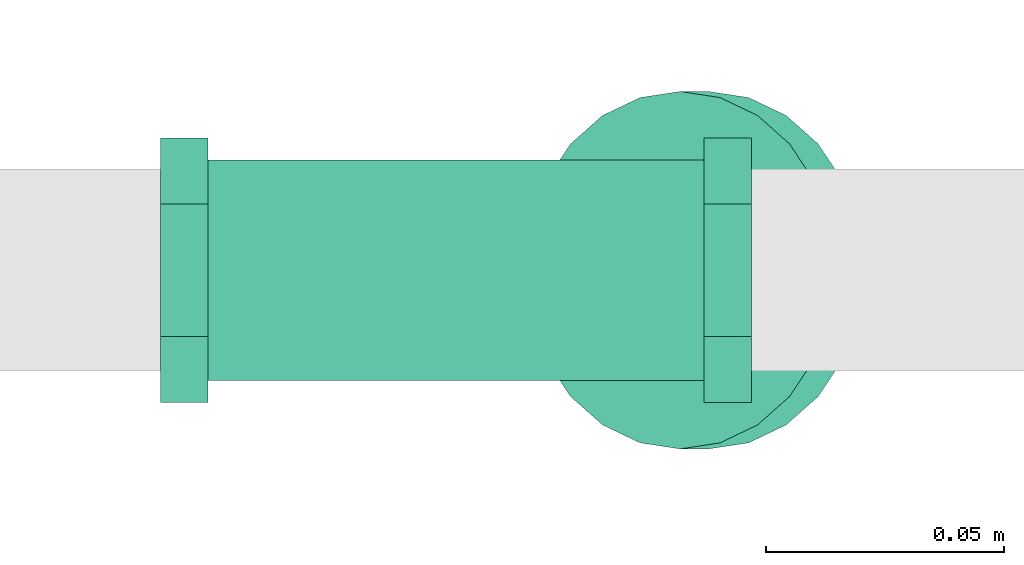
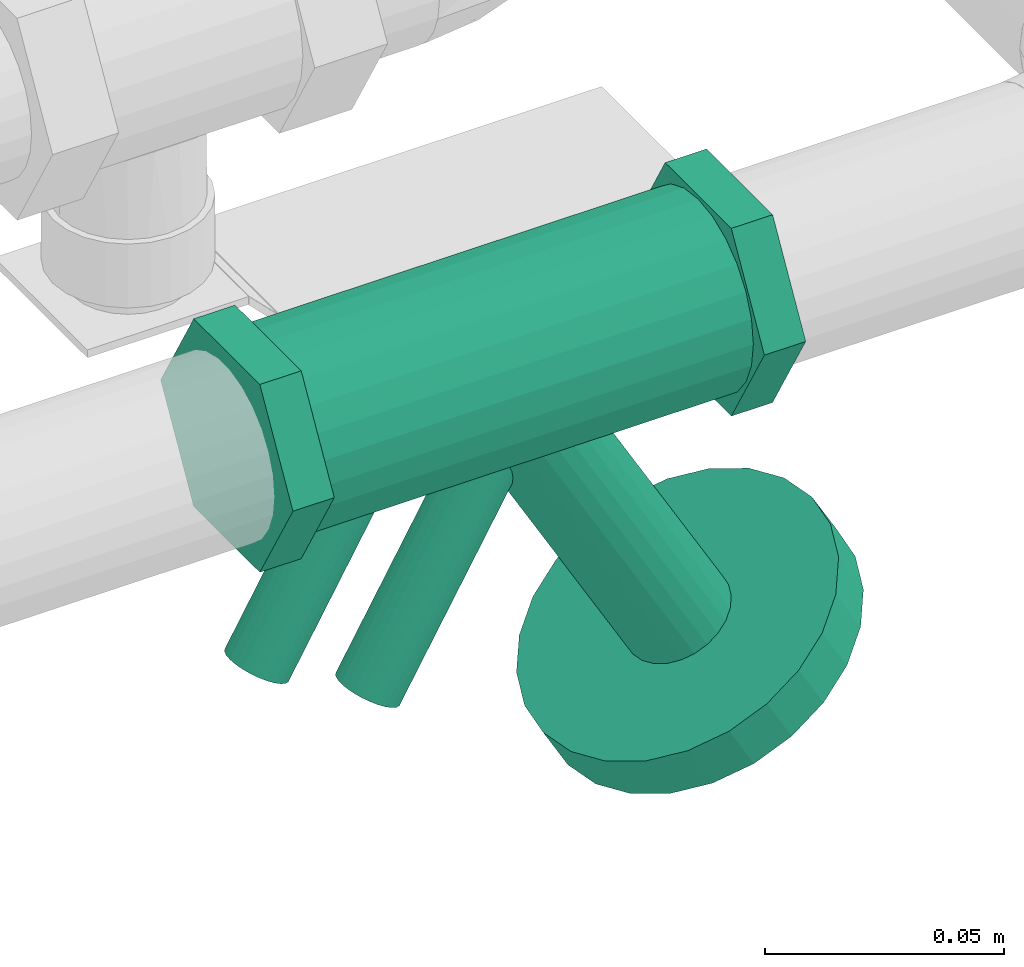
# One storey, part 37 of 108: 1 flow controller.
"""IFC2X3 building model written with IfcOpenShell, lengths in millimetres."""

from ifc_helpers import new_model, entity, si_unit, converted_unit, derived_unit, direction, frame, origin_with_axes, place, context, subcontext, project, spatial, open_shell, surface_model, source, transform, mapped, type_object, element, save


model = new_model("IFC2X3")

# Units and contexts
model_context = context("Model", 3, precision=0.01, world=frame((0.0, 4.29681676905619e-09, 0.0)), true_north=direction((4.01073788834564e-13, 1.0)))
plan_context = context("Plan", 3, precision=0.01, world=frame((0.0, 4.29681676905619e-09, 0.0)), true_north=direction((4.01073788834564e-13, 1.0)))
body_context = subcontext(model_context, "Body", "Model", "MODEL_VIEW")
ifc_project = project(units=[converted_unit("PLANEANGLEUNIT", "DEGREE", entity("IfcPositiveLengthMeasure", 0.0174532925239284), si_unit("PLANEANGLEUNIT", "RADIAN"), dimensions=[0, 0, 0, 0, 0, 0, 0]), si_unit("AREAUNIT", "SQUARE_METRE"), si_unit("LENGTHUNIT", "METRE", prefix="MILLI"), si_unit("MASSUNIT", "GRAM", prefix="KILO"), si_unit("POWERUNIT", "WATT"), si_unit("PRESSUREUNIT", "PASCAL", prefix="KILO"), si_unit("FORCEUNIT", "NEWTON", prefix="KILO"), si_unit("ELECTRICVOLTAGEUNIT", "VOLT"), si_unit("ELECTRICCURRENTUNIT", "AMPERE"), si_unit("THERMODYNAMICTEMPERATUREUNIT", "DEGREE_CELSIUS"), si_unit("TIMEUNIT", "SECOND"), si_unit("VOLUMEUNIT", "CUBIC_METRE"), derived_unit("LINEARVELOCITYUNIT", [(si_unit("LENGTHUNIT", "METRE"), 1), (si_unit("TIMEUNIT", "SECOND"), -1)]), derived_unit("VOLUMETRICFLOWRATEUNIT", [(si_unit("VOLUMEUNIT", "CUBIC_METRE"), 1), (si_unit("TIMEUNIT", "SECOND"), -1)]), derived_unit("THERMALTRANSMITTANCEUNIT", [(si_unit("POWERUNIT", "WATT"), 1), (si_unit("THERMODYNAMICTEMPERATUREUNIT", "KELVIN"), -1), (si_unit("AREAUNIT", "SQUARE_METRE"), -1)]), derived_unit("SOUNDPRESSUREUNIT", [(si_unit("PRESSUREUNIT", "PASCAL"), 1)])], contexts=[model_context, plan_context])

# Site, building, storey
site_placement = place(None, frame((0.0, -4.29681676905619e-09, 0.0), z_axis=(0.0, 0.0, 1.0), x_axis=(1.0, 0.0, 0.0)))
site = spatial("IfcSite", under=ifc_project, at=site_placement, CompositionType="ELEMENT")
building_placement = place(site_placement, frame((0.0, 4.29681676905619e-09, 0.0), z_axis=(0.0, 0.0, 1.0), x_axis=(1.0, 0.0, 0.0)))
building = spatial("IfcBuilding", under=site, at=building_placement, Name="mc-building", CompositionType="ELEMENT")
storey_placement = place(building_placement, frame((0.0, 0.0, 210200.0), z_axis=(0.0, 0.0, 1.0), x_axis=(1.0, 0.0, 0.0)))
storey = spatial("IfcBuildingStorey", under=building, at=storey_placement, Name="Nivå F - 0,7 m", CompositionType="ELEMENT", Elevation=210200.0)

# Flow controller
valve_type = type_object("IfcValveType", Name="STAD/F-32", PredefinedType="NOTDEFINED")
shared_shape = source(origin_with_axes(), body_context, "Body", "SurfaceModel", [
    surface_model("IfcShellBasedSurfaceModel", [(5.41266, -10.82532, 3.125), (7.65466, -8.83883, 4.41942), (5.32606, -10.65211, 3.075), (2.75697, -11.88089, 1.59174), (0.0, -12.3, 0.0), (2.8018, -12.07407, 1.61762), (0.0, -12.5, 0.0), (7.53218, -8.69741, 4.34871), (10.45645, -3.23524, 6.03704), (10.65211, 0.0, 6.15), (10.28915, -3.18347, 5.94044), (10.82532, 0.0, 6.25), (9.375, -6.25, 5.41266), (9.225, -6.15, 5.32606), (-2.75697, -11.88089, -1.59174), (-2.8018, -12.07407, -1.61762), (-5.32606, -10.65211, -3.075), (-7.65466, -8.83883, -4.41942), (-5.41266, -10.82532, -3.125), (-7.53218, -8.69741, -4.34871), (-9.225, -6.15, -5.32606), (-9.375, -6.25, -5.41266), (-10.28915, -3.18347, -5.94044), (-10.45645, -3.23524, -6.03704), (-10.65211, 0.0, -6.15), (-10.82532, 0.0, -6.25), (10.45645, 3.23524, 6.03704), (10.28915, 3.18347, 5.94044), (9.225, 6.15, 5.32606), (9.375, 6.25, 5.41266), (7.53218, 8.69741, 4.34871), (7.65466, 8.83883, 4.41942), (5.41266, 10.82532, 3.125), (5.32606, 10.65211, 3.075), (2.75697, 11.88089, 1.59174), (2.8018, 12.07407, 1.61762), (0.0, 12.3, 0.0), (0.0, 12.5, 0.0), (-9.375, 6.25, -5.41266), (-9.225, 6.15, -5.32606), (-7.65466, 8.83883, -4.41942), (-7.53218, 8.69741, -4.34871), (-10.45645, 3.23524, -6.03704), (-10.28915, 3.18347, -5.94044), (-2.75697, 11.88089, -1.59174), (-2.8018, 12.07407, -1.61762), (-5.32606, 10.65211, -3.075), (-5.41266, 10.82532, -3.125), (62.0, 13.86, -24.00622), (62.0, 27.72, 0.0), (62.0, -13.86, -24.00622), (62.0, 13.86, 24.00622), (62.0, -13.86, 24.00622), (62.0, -27.72, 0.0), (52.0, -27.72, 0.0), (52.0, -13.86, 24.00622), (52.0, -13.86, -24.00622), (52.0, 27.72, 0.0), (52.0, 13.86, -24.00622), (52.0, 13.86, 24.00622), (-62.0, -13.86, -24.00622), (-62.0, -27.72, 0.0), (-62.0, 13.86, -24.00622), (-62.0, -13.86, 24.00622), (-62.0, 13.86, 24.00622), (-62.0, 27.72, 0.0), (-52.0, 27.72, 0.0), (-52.0, 13.86, 24.00622), (-52.0, 13.86, -24.00622), (-52.0, -27.72, 0.0), (-52.0, -13.86, -24.00622), (-52.0, -13.86, 24.00622), (61.40539, 36.22222, -86.94584), (69.23797, 32.47595, -82.42369), (75.96396, 26.5165, -78.54045), (36.76202, 32.47595, -101.17369), (84.36936, 9.70571, -73.68759), (81.125, 18.75, -75.56072), (21.63063, -9.70571, -109.90981), (21.63063, 9.70571, -109.90981), (44.5946, 36.22222, -96.65155), (52.99999, 37.5, -91.79869), (30.03603, 26.5165, -105.05695), (24.87499, 18.75, -108.03667), (85.47595, 0.0, -73.0487), (52.99999, -37.5, -91.79869), (84.36936, -9.70571, -73.68759), (81.125, -18.75, -75.56072), (69.23797, -32.47595, -82.42369), (75.96396, -26.5165, -78.54045), (61.40539, -36.22222, -86.94584), (24.87499, -18.75, -108.03667), (20.52404, 0.0, -110.54869), (36.76202, -32.47595, -101.17369), (30.03603, -26.5165, -105.05695), (44.5946, -36.22222, -96.65155), (78.36936, -9.70571, -63.29528), (47.0, -37.5, -81.40639), (55.40539, -36.22222, -76.55353), (63.23797, -32.47595, -72.03139), (75.125, -18.75, -65.16841), (69.96396, -26.5165, -68.14814), (15.63063, -9.70571, -99.5175), (38.5946, -36.22222, -86.25925), (24.03603, -26.5165, -94.66464), (30.76202, -32.47595, -90.78139), (18.87499, -18.75, -97.64437), (15.63063, 9.70571, -99.5175), (14.52404, 0.0, -100.15639), (69.96396, 26.5165, -68.14814), (78.36936, 9.70571, -63.29528), (75.125, 18.75, -65.16841), (63.23797, 32.47595, -72.03139), (55.40539, 36.22222, -76.55353), (30.76202, 32.47595, -90.78139), (18.87499, 18.75, -97.64437), (24.03603, 26.5165, -94.66464), (47.0, 37.5, -81.40639), (38.5946, 36.22222, -86.25925), (79.47595, 0.0, -62.65639), (52.0, 11.55, -20.00519), (52.0, -5.97872, -22.31289), (52.0, 5.97872, -22.31289), (52.0, 20.00519, -11.55), (52.0, 16.33417, -16.33417), (52.0, -22.31289, -5.97872), (52.0, 22.31289, -5.97872), (52.0, -16.33417, 16.33417), (52.0, -11.55, -20.00519), (52.0, 0.0, -23.1), (52.0, -16.33417, -16.33417), (52.0, -20.00519, -11.55), (52.0, 23.1, 0.0), (52.0, 22.31289, 5.97872), (52.0, 20.00519, 11.55), (52.0, 16.33417, 16.33417), (52.0, 11.55, 20.00519), (52.0, 5.97872, 22.31289), (52.0, 0.0, 23.1), (52.0, -22.31289, 5.97872), (52.0, -20.00519, 11.55), (52.0, -23.1, 0.0), (52.0, -5.97872, 22.31289), (52.0, -11.55, 20.00519), (-52.0, 0.0, 23.1), (-52.0, 5.97872, 22.31289), (-52.0, 11.55, 20.00519), (-52.0, -16.33417, 16.33417), (-52.0, 16.33417, 16.33417), (-52.0, 20.00519, 11.55), (-52.0, 22.31289, 5.97872), (-52.0, -5.97872, 22.31289), (-52.0, -11.55, 20.00519), (-52.0, -22.31289, 5.97872), (-52.0, -20.00519, 11.55), (-52.0, -23.1, 0.0), (-52.0, -22.31289, -5.97872), (-52.0, 22.31289, -5.97872), (-52.0, 16.33417, -16.33417), (-52.0, 20.00519, -11.55), (-52.0, -5.97872, -22.31289), (-52.0, 11.55, -20.00519), (-52.0, 0.0, -23.1), (-52.0, 5.97872, -22.31289), (-52.0, -16.33417, -16.33417), (-52.0, -20.00519, -11.55), (-52.0, -11.55, -20.00519), (-52.0, 23.1, 0.0), (-26.24732, 7.24444, -75.15582), (-24.68081, 6.49519, -76.06025), (-23.33561, 5.3033, -76.8369), (-31.176, 6.49519, -72.31025), (-22.3034, 3.75, -77.43284), (-21.65453, 1.94114, -77.80747), (-21.43321, 0.0, -77.93525), (-21.65453, -1.94114, -77.80747), (-33.5534, 3.75, -70.93765), (-27.9284, 7.5, -74.18525), (-29.60948, 7.24444, -73.21468), (-32.5212, 5.3033, -71.5336), (-34.42359, 0.0, -70.43524), (-34.20228, 1.94114, -70.56303), (-22.3034, -3.75, -77.43284), (-23.33561, -5.3033, -76.8369), (-24.68081, -6.49519, -76.06025), (-26.24732, -7.24444, -75.15582), (-27.9284, -7.5, -74.18525), (-29.60948, -7.24444, -73.21468), (-34.20228, -1.94114, -70.56303), (-31.176, -6.49519, -72.31025), (-33.5534, -3.75, -70.93765), (-32.5212, -5.3033, -71.5336), (19.69659, -3.75, -4.68671), (14.07159, -7.5, -1.43911), (15.75267, -7.24444, -2.40968), (18.66439, -5.3033, -4.09076), (17.31919, -6.49519, -3.31411), (9.4788, -5.3033, 1.21254), (8.44659, -3.75, 1.80848), (20.34547, -1.94114, -5.06133), (12.39051, -7.24444, -0.46854), (10.824, -6.49519, 0.43589), (7.79772, -1.94114, 2.18311), (7.79772, 1.94114, 2.18311), (7.5764, 0.0, 2.31089), (10.824, 6.49519, 0.43589), (18.66439, 5.3033, -4.09076), (20.56678, 0.0, -5.18911), (20.34547, 1.94114, -5.06133), (19.69659, 3.75, -4.68671), (17.31919, 6.49519, -3.31411), (15.75267, 7.24444, -2.40968), (9.4788, 5.3033, 1.21254), (8.44659, 3.75, 1.80848), (14.07159, 7.5, -1.43911), (12.39051, 7.24444, -0.46854), (-48.50132, 1.94114, -62.30747), (-53.09411, 7.24444, -59.65582), (-51.5276, 6.49519, -60.56025), (-50.1824, 5.3033, -61.33689), (-61.04906, 1.94114, -55.06303), (-49.15019, 3.75, -61.93284), (-59.36798, -5.3033, -56.0336), (-56.45627, 7.24444, -57.71467), (-54.77519, 7.5, -58.68524), (-58.02278, 6.49519, -56.81025), (-59.36798, 5.3033, -56.0336), (-60.40019, 3.75, -55.43765), (-48.28, 0.0, -62.43525), (-48.50132, -1.94114, -62.30747), (-49.15019, -3.75, -61.93284), (-50.1824, -5.3033, -61.33689), (-53.09411, -7.24444, -59.65582), (-51.5276, -6.49519, -60.56025), (-54.77519, -7.5, -58.68524), (-61.04906, -1.94114, -55.06303), (-60.40019, -3.75, -55.43765), (-61.27038, 0.0, -54.93525), (-56.45627, -7.24444, -57.71467), (-58.02278, -6.49519, -56.81025), (-28.59411, -7.24444, -17.22057), (-34.86799, -5.3033, -13.59835), (-30.27519, -7.5, -16.25), (-25.6824, -5.3033, -18.90165), (-27.0276, -6.49519, -18.125), (-24.65019, -3.75, -19.49759), (-24.00132, -1.94114, -19.87222), (-36.54907, 1.94114, -12.62778), (-31.95627, -7.24444, -15.27943), (-33.52279, -6.49519, -14.375), (-35.90019, -3.75, -13.00241), (-36.54907, -1.94114, -12.62778), (-36.77038, 0.0, -12.5), (-24.00132, 1.94114, -19.87222), (-25.6824, 5.3033, -18.90165), (-24.65019, 3.75, -19.49759), (-27.0276, 6.49519, -18.125), (-28.59411, 7.24444, -17.22057), (-34.86799, 5.3033, -13.59835), (-35.90019, 3.75, -13.00241), (-33.52279, 6.49519, -14.375), (-30.27519, 7.5, -16.25), (-31.95627, 7.24444, -15.27943), (-23.78, 0.0, -20.0), (52.41265, 10.82532, -78.28139), (54.65465, 8.83883, -76.98697), (52.32605, 10.65211, -78.33139), (49.75696, 11.88089, -79.81465), (47.0, 12.3, -81.40639), (49.80179, 12.07407, -79.78877), (47.0, 12.5, -81.40639), (54.53218, 8.69741, -77.05769), (57.45645, 3.23524, -75.36935), (57.65211, 0.0, -75.25639), (57.28914, 3.18347, -75.46595), (57.82531, 0.0, -75.15639), (56.375, 6.25, -75.99373), (56.225, 6.15, -76.08034), (44.24303, 11.88089, -82.99813), (44.1982, 12.07407, -83.02401), (41.67394, 10.65211, -84.48139), (39.34534, 8.83883, -85.82581), (41.58734, 10.82532, -84.53139), (39.46781, 8.69741, -85.75509), (37.77499, 6.15, -86.73244), (37.62499, 6.25, -86.81905), (36.71085, 3.18347, -87.34683), (36.54354, 3.23524, -87.44343), (36.34788, 0.0, -87.55639), (36.17468, 0.0, -87.65639), (57.45645, -3.23524, -75.36935), (57.28914, -3.18347, -75.46595), (56.225, -6.15, -76.08034), (56.375, -6.25, -75.99373), (54.53218, -8.69741, -77.05769), (54.65465, -8.83883, -76.98697), (52.41265, -10.82532, -78.28139), (52.32605, -10.65211, -78.33139), (49.75696, -11.88089, -79.81465), (49.80179, -12.07407, -79.78877), (47.0, -12.3, -81.40639), (47.0, -12.5, -81.40639), (37.62499, -6.25, -86.81905), (37.77499, -6.15, -86.73244), (39.34534, -8.83883, -85.82581), (39.46781, -8.69741, -85.75509), (36.54354, -3.23524, -87.44343), (36.71085, -3.18347, -87.34683), (44.24303, -11.88089, -82.99813), (44.1982, -12.07407, -83.02401), (41.67394, -10.65211, -84.48139), (41.58734, -10.82532, -84.53139)], [open_shell([[[0, 1, 2]], [[0, 2, 3]], [[4, 5, 3]], [[5, 4, 6]], [[3, 5, 0]], [[2, 1, 7]], [[8, 9, 10]], [[9, 8, 11]], [[8, 10, 12]], [[7, 12, 13]], [[12, 7, 1]], [[13, 12, 10]], [[6, 14, 15]], [[15, 14, 16]], [[17, 18, 19]], [[16, 18, 15]], [[16, 19, 18]], [[6, 4, 14]], [[20, 21, 17]], [[21, 20, 22]], [[20, 17, 19]], [[23, 22, 24]], [[22, 23, 21]], [[23, 24, 25]], [[11, 26, 27]], [[27, 26, 28]], [[28, 29, 30]], [[29, 28, 26]], [[30, 29, 31]], [[31, 32, 33]], [[33, 32, 34]], [[34, 35, 36]], [[35, 34, 32]], [[36, 35, 37]], [[33, 30, 31]], [[38, 39, 40]], [[40, 39, 41]], [[39, 38, 42]], [[25, 43, 42]], [[42, 43, 39]], [[25, 24, 43]], [[44, 37, 45]], [[44, 45, 46]], [[41, 47, 40]], [[41, 46, 47]], [[47, 46, 45]], [[36, 37, 44]], [[27, 9, 11]], [[48, 49, 50]], [[50, 49, 51]], [[50, 52, 53]], [[52, 50, 51]], [[54, 55, 56]], [[56, 55, 57]], [[57, 58, 56]], [[57, 55, 59]], [[52, 51, 55]], [[59, 55, 51]], [[53, 52, 55]], [[55, 54, 53]], [[50, 53, 54]], [[54, 56, 50]], [[48, 50, 58]], [[56, 58, 50]], [[49, 48, 57]], [[58, 57, 48]], [[51, 49, 59]], [[57, 59, 49]], [[60, 61, 62]], [[62, 61, 63]], [[62, 64, 65]], [[64, 62, 63]], [[66, 67, 68]], [[68, 67, 69]], [[69, 70, 68]], [[69, 67, 71]], [[64, 63, 67]], [[71, 67, 63]], [[65, 64, 67]], [[67, 66, 65]], [[62, 65, 66]], [[66, 68, 62]], [[60, 62, 70]], [[68, 70, 62]], [[61, 60, 69]], [[70, 69, 60]], [[63, 61, 71]], [[69, 71, 61]], [[72, 73, 74]], [[75, 72, 74]], [[75, 74, 76]], [[76, 74, 77]], [[78, 79, 76]], [[72, 80, 81]], [[72, 75, 80]], [[82, 79, 83]], [[79, 82, 75]], [[76, 79, 75]], [[76, 84, 78]], [[85, 86, 87]], [[88, 87, 89]], [[88, 90, 85]], [[88, 85, 87]], [[86, 85, 91]], [[86, 91, 78]], [[92, 79, 78]], [[91, 93, 94]], [[91, 85, 93]], [[93, 85, 95]], [[78, 84, 86]], [[96, 97, 98]], [[96, 98, 99]], [[100, 96, 99]], [[100, 99, 101]], [[97, 96, 102]], [[103, 104, 105]], [[104, 103, 102]], [[104, 102, 106]], [[103, 97, 102]], [[102, 107, 108]], [[102, 96, 109]], [[96, 110, 109]], [[109, 110, 111]], [[109, 112, 113]], [[109, 114, 102]], [[113, 114, 109]], [[115, 114, 116]], [[107, 102, 115]], [[114, 117, 118]], [[115, 102, 114]], [[117, 114, 113]], [[119, 110, 96]], [[107, 79, 108]], [[115, 83, 107]], [[75, 116, 114]], [[115, 116, 82]], [[80, 114, 118]], [[107, 83, 79]], [[79, 92, 108]], [[80, 75, 114]], [[82, 116, 75]], [[82, 83, 115]], [[81, 80, 118]], [[118, 117, 81]], [[113, 72, 117]], [[112, 73, 113]], [[77, 109, 111]], [[112, 109, 74]], [[76, 111, 110]], [[112, 74, 73]], [[73, 72, 113]], [[84, 76, 110]], [[77, 111, 76]], [[77, 74, 109]], [[119, 84, 110]], [[117, 72, 81]], [[96, 86, 119]], [[100, 87, 96]], [[88, 101, 99]], [[100, 101, 89]], [[90, 99, 98]], [[96, 87, 86]], [[86, 84, 119]], [[90, 88, 99]], [[89, 101, 88]], [[89, 87, 100]], [[85, 90, 98]], [[98, 97, 85]], [[103, 95, 97]], [[105, 93, 103]], [[91, 104, 106]], [[105, 104, 94]], [[78, 106, 102]], [[105, 94, 93]], [[93, 95, 103]], [[92, 78, 102]], [[91, 106, 78]], [[91, 94, 104]], [[108, 92, 102]], [[97, 95, 85]], [[120, 121, 122]], [[123, 120, 124]], [[125, 120, 126]], [[126, 120, 123]], [[127, 125, 126]], [[121, 125, 128]], [[121, 129, 122]], [[130, 125, 131]], [[125, 130, 128]], [[120, 125, 121]], [[126, 132, 127]], [[133, 134, 135]], [[133, 135, 136]], [[136, 137, 138]], [[133, 136, 127]], [[127, 136, 138]], [[139, 127, 140]], [[139, 141, 125]], [[127, 142, 143]], [[125, 127, 139]], [[138, 142, 127]], [[127, 132, 133]], [[144, 145, 146]], [[147, 144, 146]], [[148, 149, 150]], [[148, 150, 146]], [[147, 146, 150]], [[151, 147, 152]], [[151, 144, 147]], [[147, 153, 154]], [[155, 153, 156]], [[153, 147, 156]], [[147, 150, 156]], [[156, 150, 157]], [[158, 157, 159]], [[160, 157, 161]], [[161, 157, 158]], [[162, 161, 163]], [[156, 164, 165]], [[164, 156, 166]], [[156, 160, 166]], [[156, 157, 160]], [[161, 162, 160]], [[157, 150, 167]], [[125, 156, 165]], [[164, 131, 165]], [[128, 166, 160]], [[164, 166, 130]], [[121, 160, 162]], [[156, 141, 155]], [[156, 125, 141]], [[165, 131, 125]], [[164, 130, 131]], [[128, 130, 166]], [[160, 121, 128]], [[162, 129, 121]], [[122, 163, 161]], [[158, 120, 161]], [[123, 159, 157]], [[158, 159, 124]], [[126, 157, 167]], [[163, 122, 129]], [[161, 120, 122]], [[158, 124, 120]], [[159, 123, 124]], [[126, 123, 157]], [[167, 132, 126]], [[163, 129, 162]], [[167, 150, 133]], [[136, 146, 145]], [[146, 135, 148]], [[144, 137, 145]], [[167, 133, 132]], [[133, 150, 149]], [[133, 149, 134]], [[149, 148, 134]], [[134, 148, 135]], [[135, 146, 136]], [[145, 137, 136]], [[144, 138, 137]], [[142, 151, 152]], [[147, 143, 152]], [[140, 154, 153]], [[147, 154, 127]], [[139, 153, 155]], [[151, 142, 138]], [[152, 143, 142]], [[147, 127, 143]], [[154, 140, 127]], [[139, 140, 153]], [[155, 141, 139]], [[151, 138, 144]], [[168, 169, 170]], [[171, 168, 170]], [[172, 173, 174]], [[172, 174, 170]], [[175, 176, 170]], [[177, 171, 178]], [[177, 168, 171]], [[171, 176, 179]], [[170, 176, 171]], [[176, 180, 181]], [[175, 170, 174]], [[175, 182, 183]], [[175, 183, 184]], [[184, 185, 186]], [[184, 186, 175]], [[175, 186, 187]], [[188, 189, 190]], [[180, 176, 188]], [[190, 189, 191]], [[189, 188, 187]], [[175, 187, 188]], [[188, 176, 175]], [[192, 193, 194]], [[195, 194, 196]], [[193, 192, 197]], [[192, 194, 195]], [[198, 192, 199]], [[200, 197, 201]], [[200, 193, 197]], [[192, 198, 197]], [[202, 198, 199]], [[202, 203, 204]], [[202, 199, 205]], [[206, 207, 208]], [[206, 208, 209]], [[206, 210, 211]], [[211, 199, 206]], [[211, 205, 199]], [[203, 212, 213]], [[212, 203, 205]], [[205, 214, 215]], [[203, 202, 205]], [[211, 214, 205]], [[206, 199, 207]], [[203, 181, 204]], [[213, 176, 203]], [[171, 212, 205]], [[213, 212, 179]], [[178, 205, 215]], [[203, 176, 181]], [[181, 180, 204]], [[178, 171, 205]], [[179, 212, 171]], [[179, 176, 213]], [[177, 178, 215]], [[215, 214, 177]], [[211, 168, 214]], [[210, 169, 211]], [[172, 206, 209]], [[210, 206, 170]], [[173, 209, 208]], [[210, 170, 169]], [[169, 168, 211]], [[174, 173, 208]], [[172, 209, 173]], [[172, 170, 206]], [[207, 174, 208]], [[214, 168, 177]], [[199, 175, 207]], [[192, 182, 199]], [[184, 195, 196]], [[192, 195, 183]], [[185, 196, 194]], [[207, 175, 174]], [[199, 182, 175]], [[186, 185, 194]], [[182, 192, 183]], [[185, 184, 196]], [[195, 184, 183]], [[194, 193, 186]], [[200, 187, 193]], [[201, 189, 200]], [[201, 197, 189]], [[197, 198, 191]], [[187, 200, 189]], [[189, 197, 191]], [[202, 188, 190]], [[188, 202, 180]], [[202, 204, 180]], [[190, 191, 198]], [[190, 198, 202]], [[193, 187, 186]], [[216, 217, 218]], [[216, 218, 219]], [[217, 216, 220]], [[216, 219, 221]], [[222, 220, 216]], [[217, 223, 224]], [[217, 225, 223]], [[226, 220, 227]], [[220, 226, 225]], [[217, 220, 225]], [[216, 228, 229]], [[229, 230, 231]], [[216, 231, 222]], [[231, 232, 222]], [[232, 231, 233]], [[234, 222, 232]], [[235, 222, 236]], [[237, 220, 235]], [[222, 238, 239]], [[220, 222, 235]], [[234, 238, 222]], [[229, 231, 216]], [[240, 241, 242]], [[243, 240, 244]], [[243, 245, 246]], [[241, 240, 247]], [[247, 240, 243]], [[248, 241, 249]], [[248, 242, 241]], [[241, 247, 250]], [[247, 251, 250]], [[251, 247, 252]], [[246, 253, 243]], [[247, 243, 253]], [[254, 253, 255]], [[256, 257, 253]], [[256, 253, 254]], [[247, 253, 257]], [[247, 258, 259]], [[258, 247, 260]], [[260, 261, 262]], [[260, 247, 257]], [[257, 261, 260]], [[253, 246, 263]], [[247, 220, 252]], [[259, 227, 247]], [[225, 258, 260]], [[259, 258, 226]], [[223, 260, 262]], [[247, 227, 220]], [[220, 237, 252]], [[223, 225, 260]], [[226, 258, 225]], [[226, 227, 259]], [[224, 223, 262]], [[262, 261, 224]], [[257, 217, 261]], [[256, 218, 257]], [[221, 254, 255]], [[256, 254, 219]], [[216, 255, 253]], [[256, 219, 218]], [[218, 217, 257]], [[228, 216, 253]], [[221, 255, 216]], [[221, 219, 254]], [[263, 228, 253]], [[261, 217, 224]], [[246, 229, 263]], [[245, 230, 246]], [[233, 243, 244]], [[245, 243, 231]], [[232, 244, 240]], [[246, 230, 229]], [[229, 228, 263]], [[232, 233, 244]], [[231, 243, 233]], [[231, 230, 245]], [[234, 232, 240]], [[240, 242, 234]], [[248, 238, 242]], [[249, 239, 248]], [[236, 241, 250]], [[249, 241, 222]], [[235, 250, 251]], [[249, 222, 239]], [[239, 238, 248]], [[237, 235, 251]], [[236, 250, 235]], [[236, 222, 241]], [[252, 237, 251]], [[242, 238, 234]], [[264, 265, 266]], [[264, 266, 267]], [[268, 269, 267]], [[269, 268, 270]], [[267, 269, 264]], [[266, 265, 271]], [[272, 273, 274]], [[273, 272, 275]], [[272, 274, 276]], [[271, 276, 277]], [[276, 271, 265]], [[277, 276, 274]], [[270, 278, 279]], [[279, 278, 280]], [[281, 282, 283]], [[280, 282, 279]], [[280, 283, 282]], [[270, 268, 278]], [[284, 285, 281]], [[285, 284, 286]], [[284, 281, 283]], [[287, 286, 288]], [[286, 287, 285]], [[287, 288, 289]], [[275, 290, 291]], [[291, 290, 292]], [[292, 293, 294]], [[293, 292, 290]], [[294, 293, 295]], [[295, 296, 297]], [[297, 296, 298]], [[298, 299, 300]], [[299, 298, 296]], [[300, 299, 301]], [[297, 294, 295]], [[302, 303, 304]], [[304, 303, 305]], [[303, 302, 306]], [[289, 307, 306]], [[306, 307, 303]], [[289, 288, 307]], [[308, 301, 309]], [[308, 309, 310]], [[305, 311, 304]], [[305, 310, 311]], [[311, 310, 309]], [[300, 301, 308]], [[291, 273, 275]], [[42, 287, 25]], [[38, 285, 42]], [[282, 40, 47]], [[38, 40, 281]], [[279, 47, 45]], [[42, 285, 287]], [[287, 289, 25]], [[279, 282, 47]], [[281, 40, 282]], [[281, 285, 38]], [[270, 279, 45]], [[45, 37, 270]], [[35, 269, 37]], [[32, 264, 35]], [[276, 31, 29]], [[32, 31, 265]], [[272, 29, 26]], [[32, 265, 264]], [[264, 269, 35]], [[275, 272, 26]], [[276, 29, 272]], [[276, 265, 31]], [[11, 275, 26]], [[37, 269, 270]], [[8, 290, 11]], [[12, 293, 8]], [[296, 1, 0]], [[12, 1, 295]], [[299, 0, 5]], [[11, 290, 275]], [[8, 293, 290]], [[296, 0, 299]], [[12, 295, 293]], [[1, 296, 295]], [[5, 301, 299]], [[5, 6, 301]], [[15, 309, 6]], [[18, 311, 15]], [[18, 17, 304]], [[17, 21, 304]], [[309, 15, 311]], [[311, 18, 304]], [[306, 23, 289]], [[23, 306, 302]], [[23, 25, 289]], [[302, 304, 21]], [[302, 21, 23]], [[6, 309, 301]], [[24, 286, 43]], [[43, 284, 39]], [[283, 41, 39]], [[280, 46, 41]], [[286, 284, 43]], [[24, 288, 286]], [[280, 278, 44]], [[44, 278, 268]], [[280, 41, 283]], [[39, 284, 283]], [[280, 44, 46]], [[268, 36, 44]], [[33, 34, 267]], [[33, 266, 30]], [[27, 28, 277]], [[271, 28, 30]], [[9, 27, 274]], [[34, 268, 267]], [[266, 33, 267]], [[277, 28, 271]], [[27, 277, 274]], [[271, 30, 266]], [[274, 273, 9]], [[36, 268, 34]], [[9, 291, 10]], [[10, 292, 13]], [[2, 7, 297]], [[294, 7, 13]], [[3, 2, 297]], [[291, 292, 10]], [[9, 273, 291]], [[300, 4, 298]], [[3, 297, 298]], [[297, 7, 294]], [[13, 292, 294]], [[3, 298, 4]], [[16, 14, 308]], [[16, 310, 19]], [[22, 20, 303]], [[305, 20, 19]], [[24, 22, 307]], [[308, 4, 300]], [[16, 308, 310]], [[303, 20, 305]], [[22, 303, 307]], [[305, 19, 310]], [[288, 24, 307]], [[14, 4, 308]]])]),
])
flow_controller_placement = place(storey_placement, frame((329274.875, 460254.12277, 3038.28479999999), z_axis=(0.0, 0.0, 1.0), x_axis=(1.0, 0.0, 0.0)))
element("IfcFlowController", 1, at=flow_controller_placement, inside=storey, type_object=valve_type, Name="STAD/F-32", context=body_context, shape_type="MappedRepresentation", body=[
    mapped(shared_shape, transform((0.0, 0.0, 0.0), scale=1.0)),
])

save(model, "model.ifc")
